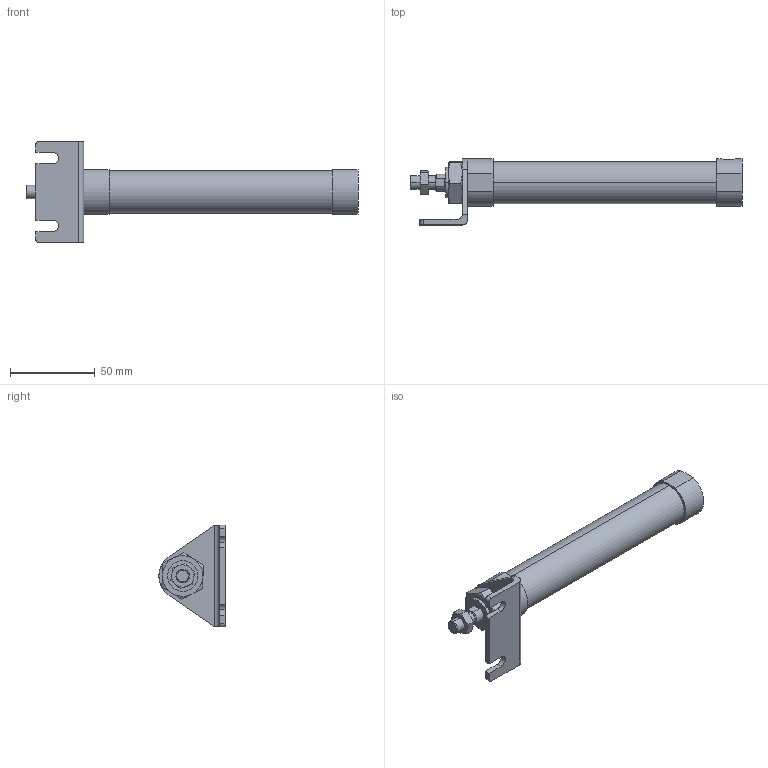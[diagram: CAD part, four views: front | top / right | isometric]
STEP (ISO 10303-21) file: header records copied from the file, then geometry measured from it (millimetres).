
FILE_DESCRIPTION (( 'STEP AP203' ), '1' );
FILE_NAME ('JGND1-20-50-L.STEP', '2016-08-04T02:14:40', ( '' ), ( '' ), 'SwSTEP 2.0', 'SolidWorks 2014', '' );
FILE_SCHEMA (( 'CONFIG_CONTROL_DESIGN' ));
Length unit declared in the file: millimetre
Products named in the file (5): J#1-20-50(P); J#2-20-L; JGND1-20-50-L
Assembly tree (4 placements, depth 2):
  JGND1-20-50-L
    J#1-20-50(P)
    (unnamed)
    (unnamed)
    J#2-20-L
Bounding box: 196 x 39 x 60 mm (x, y, z)
Volume: 97836.7 mm3; surface area: 24329.8 mm2
Topology: 4 solids, 4 shells, 108 faces, 249 edges, 156 vertices
Faces by surface type: plane 48, cylinder 32, torus 24, cone 4
Entity records: 3864 total; most frequent: CARTESIAN_POINT 910, DIRECTION 519, ORIENTED_EDGE 498, EDGE_CURVE 249, AXIS2_PLACEMENT_3D 209, VERTEX_POINT 156, EDGE_LOOP 121, FACE_OUTER_BOUND 108
